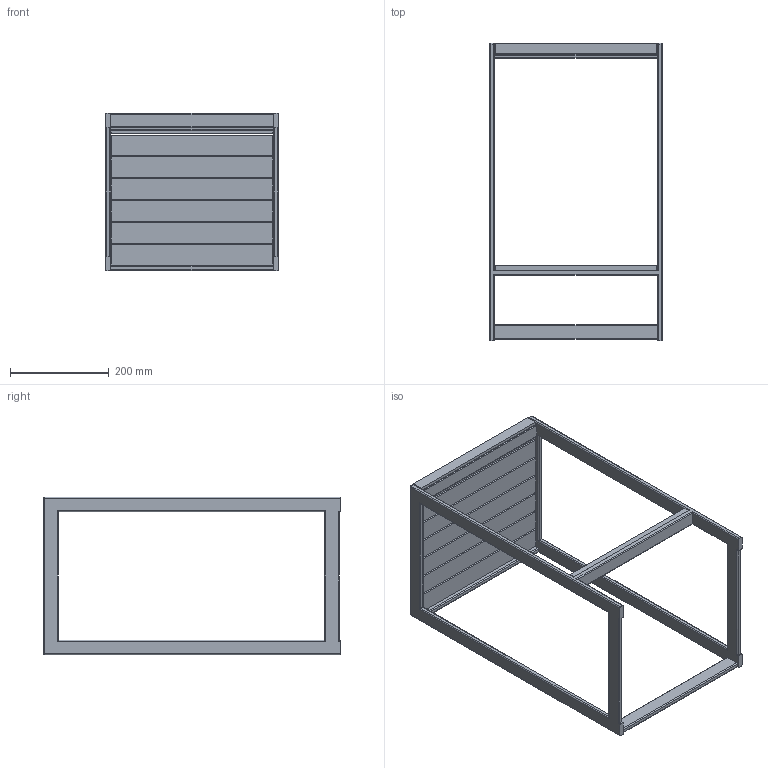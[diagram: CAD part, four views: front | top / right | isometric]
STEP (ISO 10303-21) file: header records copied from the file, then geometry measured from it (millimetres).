
FILE_DESCRIPTION(/* description */ (''),/* implementation_level */ '2;1');
FILE_NAME(/* name */ 'C:\INVENTOR\Workspace\# ARKITEKT FILER\Open Bistro\Bar Chair Low\Bar Chair Low.stp',/* time_stamp */ '2020-05-05T11:01:55+02:00',/* author */ ('Röshults'),/* organization */ (''),/* preprocessor_version */ 'ST-DEVELOPER v17.2',/* originating_system */ 'Autodesk Inventor 2019',/* authorisation */ '');
FILE_SCHEMA (('AUTOMOTIVE_DESIGN { 1 0 10303 214 3 1 1 }'));
Length unit declared in the file: millimetre
Products named in the file (1): Bar Chair Low
Bounding box: 350 x 603 x 320 mm (x, y, z)
Volume: 3527343 mm3; surface area: 670792.5 mm2
Topology: 8 solids, 8 shells, 148 faces, 356 edges, 219 vertices
Faces by surface type: plane 85, cylinder 57, sphere 6
Entity records: 4331 total; most frequent: DIRECTION 735, CARTESIAN_POINT 724, ORIENTED_EDGE 712, EDGE_CURVE 356, LINE 275, VECTOR 275, AXIS2_PLACEMENT_3D 230, VERTEX_POINT 219
